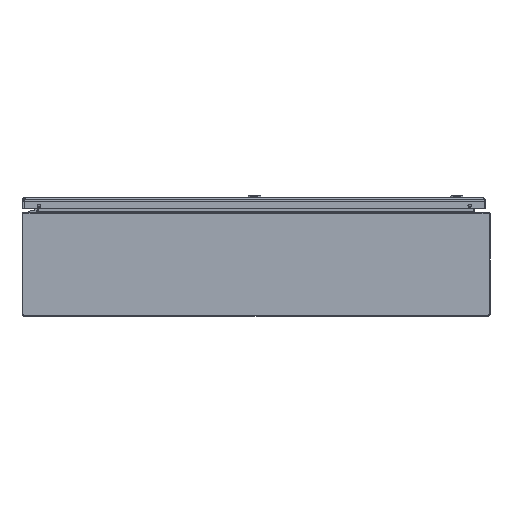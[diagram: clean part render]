
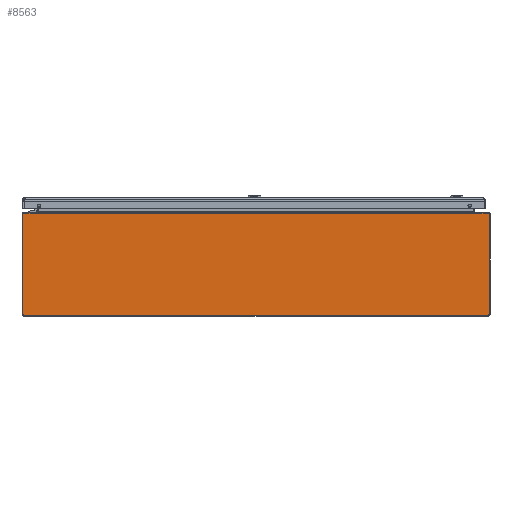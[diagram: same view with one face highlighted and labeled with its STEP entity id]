
A CAD part, front view. The second image highlights one B-rep face of the part: STEP entity #8563.
In plain terms, the highlighted planar face has unit normal (0, -1, 0).
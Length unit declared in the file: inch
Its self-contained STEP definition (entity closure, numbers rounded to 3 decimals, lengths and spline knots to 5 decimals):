
#7666=CARTESIAN_POINT('',(17.887,0.,3.897));
#7667=DIRECTION('',(0.,-1.,0.));
#7668=DIRECTION('',(1.,0.,0.));
#7669=AXIS2_PLACEMENT_3D('',#7666,#7667,#7668);
#7674=DIRECTION('',(0.,0.,-1.));
#7675=VECTOR('',#7674,7.764);
#7676=CARTESIAN_POINT('',(17.967,0.,3.897));
#7677=LINE('',#7676,#7675);
#7681=CARTESIAN_POINT('',(17.887,0.,-3.867));
#7682=DIRECTION('',(0.,-1.,0.));
#7683=DIRECTION('',(0.,0.,-1.));
#7684=AXIS2_PLACEMENT_3D('',#7681,#7682,#7683);
#7689=CARTESIAN_POINT('',(-17.887,0.,-3.867));
#7690=DIRECTION('',(0.,-1.,0.));
#7691=DIRECTION('',(-1.,0.,0.));
#7692=AXIS2_PLACEMENT_3D('',#7689,#7690,#7691);
#7697=DIRECTION('',(0.,0.,1.));
#7698=VECTOR('',#7697,7.764);
#7699=CARTESIAN_POINT('',(-17.967,0.,-3.867));
#7700=LINE('',#7699,#7698);
#7704=CARTESIAN_POINT('',(-17.887,0.,3.897));
#7705=DIRECTION('',(0.,-1.,0.));
#7706=DIRECTION('',(0.,0.,1.));
#7707=AXIS2_PLACEMENT_3D('',#7704,#7705,#7706);
#7719=DIRECTION('',(-1.,0.,0.));
#7720=VECTOR('',#7719,1.062);
#7721=CARTESIAN_POINT('',(17.887,0.,3.977));
#7722=LINE('',#7721,#7720);
#7747=DIRECTION('',(0.,0.,-1.));
#7748=VECTOR('',#7747,0.094);
#7749=CARTESIAN_POINT('',(16.825,0.,3.977));
#7750=LINE('',#7749,#7748);
#7890=DIRECTION('',(1.,0.,0.));
#7891=VECTOR('',#7890,33.65);
#7892=CARTESIAN_POINT('',(-16.825,0.,3.883));
#7893=LINE('',#7892,#7891);
#7934=DIRECTION('',(0.,0.,1.));
#7935=VECTOR('',#7934,0.094);
#7936=CARTESIAN_POINT('',(-16.825,0.,3.883));
#7937=LINE('',#7936,#7935);
#7969=DIRECTION('',(-1.,0.,0.));
#7970=VECTOR('',#7969,1.062);
#7971=CARTESIAN_POINT('',(-16.825,0.,3.977));
#7972=LINE('',#7971,#7970);
#8011=DIRECTION('',(1.,0.,0.));
#8012=VECTOR('',#8011,35.774);
#8013=CARTESIAN_POINT('',(-17.887,0.,-3.947));
#8014=LINE('',#8013,#8012);
#8416=CARTESIAN_POINT('',(-16.825,0.,3.883));
#8417=CARTESIAN_POINT('',(16.825,0.,3.883));
#8418=VERTEX_POINT('',#8416);
#8419=VERTEX_POINT('',#8417);
#8492=CARTESIAN_POINT('',(16.825,0.,3.977));
#8494=VERTEX_POINT('',#8492);
#8496=CARTESIAN_POINT('',(-16.825,0.,3.977));
#8498=VERTEX_POINT('',#8496);
#8500=CARTESIAN_POINT('',(17.967,0.,3.897));
#8501=CARTESIAN_POINT('',(17.887,0.,3.977));
#8502=VERTEX_POINT('',#8500);
#8503=VERTEX_POINT('',#8501);
#8508=CARTESIAN_POINT('',(17.887,0.,-3.947));
#8509=CARTESIAN_POINT('',(17.967,0.,-3.867));
#8510=VERTEX_POINT('',#8508);
#8511=VERTEX_POINT('',#8509);
#8516=CARTESIAN_POINT('',(-17.967,0.,-3.867));
#8517=CARTESIAN_POINT('',(-17.887,0.,-3.947));
#8518=VERTEX_POINT('',#8516);
#8519=VERTEX_POINT('',#8517);
#8524=CARTESIAN_POINT('',(-17.887,0.,3.977));
#8525=CARTESIAN_POINT('',(-17.967,0.,3.897));
#8526=VERTEX_POINT('',#8524);
#8527=VERTEX_POINT('',#8525);
#8532=CARTESIAN_POINT('',(0.,0.,0.));
#8533=DIRECTION('',(0.,-1.,0.));
#8534=DIRECTION('',(-1.,0.,0.));
#8535=AXIS2_PLACEMENT_3D('',#8532,#8533,#8534);
#8536=PLANE('',#8535);
#8538=ORIENTED_EDGE('',*,*,#8537,.F.);
#8540=ORIENTED_EDGE('',*,*,#8539,.T.);
#8542=ORIENTED_EDGE('',*,*,#8541,.F.);
#8544=ORIENTED_EDGE('',*,*,#8543,.F.);
#8546=ORIENTED_EDGE('',*,*,#8545,.F.);
#8548=ORIENTED_EDGE('',*,*,#8547,.T.);
#8550=ORIENTED_EDGE('',*,*,#8549,.F.);
#8552=ORIENTED_EDGE('',*,*,#8551,.F.);
#8554=ORIENTED_EDGE('',*,*,#8553,.F.);
#8556=ORIENTED_EDGE('',*,*,#8555,.T.);
#8558=ORIENTED_EDGE('',*,*,#8557,.F.);
#8560=ORIENTED_EDGE('',*,*,#8559,.F.);
#8561=EDGE_LOOP('',(#8538,#8540,#8542,#8544,#8546,#8548,#8550,#8552,#8554,#8556,
#8558,#8560));
#8562=FACE_OUTER_BOUND('',#8561,.F.);
#7670=CIRCLE('',#7669,0.08);
#7685=CIRCLE('',#7684,0.08);
#7693=CIRCLE('',#7692,0.08);
#7708=CIRCLE('',#7707,0.08);
#8537=EDGE_CURVE('',#8502,#8503,#7670,.T.);
#8539=EDGE_CURVE('',#8502,#8511,#7677,.T.);
#8541=EDGE_CURVE('',#8510,#8511,#7685,.T.);
#8543=EDGE_CURVE('',#8519,#8510,#8014,.T.);
#8545=EDGE_CURVE('',#8518,#8519,#7693,.T.);
#8547=EDGE_CURVE('',#8518,#8527,#7700,.T.);
#8549=EDGE_CURVE('',#8526,#8527,#7708,.T.);
#8551=EDGE_CURVE('',#8498,#8526,#7972,.T.);
#8553=EDGE_CURVE('',#8418,#8498,#7937,.T.);
#8555=EDGE_CURVE('',#8418,#8419,#7893,.T.);
#8557=EDGE_CURVE('',#8494,#8419,#7750,.T.);
#8559=EDGE_CURVE('',#8503,#8494,#7722,.T.);
#8563=ADVANCED_FACE('',(#8562),#8536,.T.);
